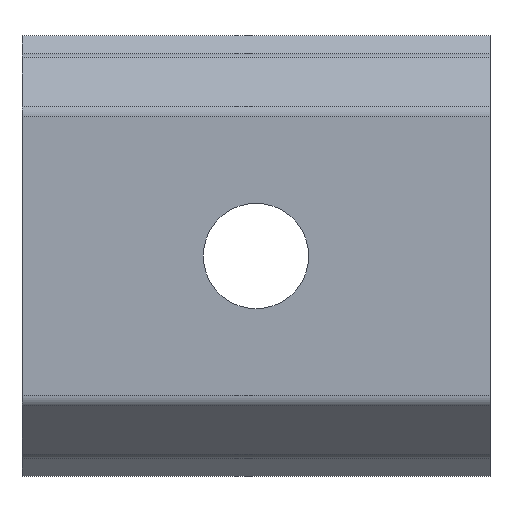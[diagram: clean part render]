
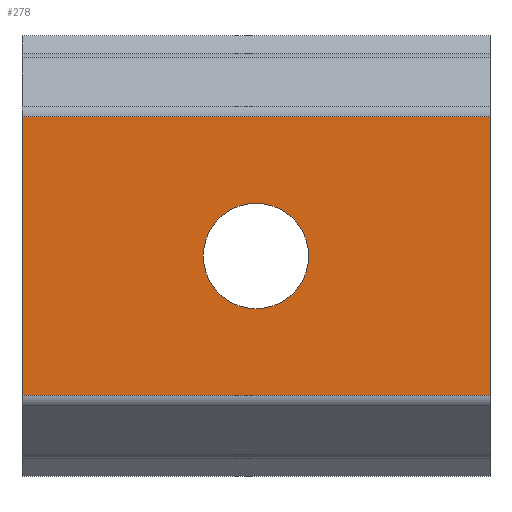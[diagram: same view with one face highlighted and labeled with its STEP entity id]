
A CAD part, front view. The second image highlights one B-rep face of the part: STEP entity #278.
In plain terms, the highlighted planar face has unit normal (0, -1, 0).
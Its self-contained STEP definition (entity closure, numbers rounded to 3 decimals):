
#23 = ORIENTED_EDGE ( 'NONE', *, *, #171, .F. ) ;
#104 = AXIS2_PLACEMENT_3D ( 'NONE', #751, #108, #534 ) ;
#107 = VERTEX_POINT ( 'NONE', #1190 ) ;
#108 = DIRECTION ( 'NONE',  ( 0., 1., 0. ) ) ;
#121 = DIRECTION ( 'NONE',  ( 0., 1., 0. ) ) ;
#134 = ORIENTED_EDGE ( 'NONE', *, *, #1102, .T. ) ;
#166 = DIRECTION ( 'NONE',  ( -1., 0., 0. ) ) ;
#171 = EDGE_CURVE ( 'NONE', #401, #1173, #1110, .T. ) ;
#267 = VECTOR ( 'NONE', #166, 1000. ) ;
#274 = ORIENTED_EDGE ( 'NONE', *, *, #907, .T. ) ;
#278 = ADVANCED_FACE ( 'NONE', ( #1243, #818 ), #433, .F. ) ;
#299 = CARTESIAN_POINT ( 'NONE',  ( 10., 0., -5.959 ) ) ;
#311 = CARTESIAN_POINT ( 'NONE',  ( 10., 0., 5.959 ) ) ;
#329 = VECTOR ( 'NONE', #1111, 1000. ) ;
#378 = EDGE_LOOP ( 'NONE', ( #1028, #595, #23, #134 ) ) ;
#379 = CARTESIAN_POINT ( 'NONE',  ( 10., 0., 5.959 ) ) ;
#385 = CARTESIAN_POINT ( 'NONE',  ( 0., 0., 2.25 ) ) ;
#387 = LINE ( 'NONE', #490, #267 ) ;
#401 = VERTEX_POINT ( 'NONE', #1146 ) ;
#433 = PLANE ( 'NONE',  #916 ) ;
#452 = LINE ( 'NONE', #567, #1181 ) ;
#490 = CARTESIAN_POINT ( 'NONE',  ( 10., 0., 5.959 ) ) ;
#501 = LINE ( 'NONE', #1212, #329 ) ;
#534 = DIRECTION ( 'NONE',  ( 0., 0., 1. ) ) ;
#547 = DIRECTION ( 'NONE',  ( 0., 0., 1. ) ) ;
#567 = CARTESIAN_POINT ( 'NONE',  ( -10., 0., 5.959 ) ) ;
#595 = ORIENTED_EDGE ( 'NONE', *, *, #1131, .F. ) ;
#618 = CARTESIAN_POINT ( 'NONE',  ( -10., 0., -5.959 ) ) ;
#633 = VECTOR ( 'NONE', #1305, 1000. ) ;
#751 = CARTESIAN_POINT ( 'NONE',  ( 0., 0., 0. ) ) ;
#818 = FACE_OUTER_BOUND ( 'NONE', #378, .T. ) ;
#833 = VERTEX_POINT ( 'NONE', #618 ) ;
#857 = EDGE_LOOP ( 'NONE', ( #274 ) ) ;
#886 = VERTEX_POINT ( 'NONE', #385 ) ;
#907 = EDGE_CURVE ( 'NONE', #886, #886, #1354, .T. ) ;
#916 = AXIS2_PLACEMENT_3D ( 'NONE', #311, #121, #547 ) ;
#981 = DIRECTION ( 'NONE',  ( 0., 0., -1. ) ) ;
#1025 = EDGE_CURVE ( 'NONE', #107, #833, #452, .T. ) ;
#1028 = ORIENTED_EDGE ( 'NONE', *, *, #1025, .T. ) ;
#1102 = EDGE_CURVE ( 'NONE', #401, #107, #387, .T. ) ;
#1110 = LINE ( 'NONE', #379, #633 ) ;
#1111 = DIRECTION ( 'NONE',  ( -1., 0., 0. ) ) ;
#1131 = EDGE_CURVE ( 'NONE', #1173, #833, #501, .T. ) ;
#1146 = CARTESIAN_POINT ( 'NONE',  ( 10., 0., 5.959 ) ) ;
#1173 = VERTEX_POINT ( 'NONE', #299 ) ;
#1181 = VECTOR ( 'NONE', #981, 1000. ) ;
#1190 = CARTESIAN_POINT ( 'NONE',  ( -10., 0., 5.959 ) ) ;
#1212 = CARTESIAN_POINT ( 'NONE',  ( 10., 0., -5.959 ) ) ;
#1243 = FACE_BOUND ( 'NONE', #857, .T. ) ;
#1305 = DIRECTION ( 'NONE',  ( 0., 0., -1. ) ) ;
#1354 = CIRCLE ( 'NONE', #104, 2.25 ) ;
